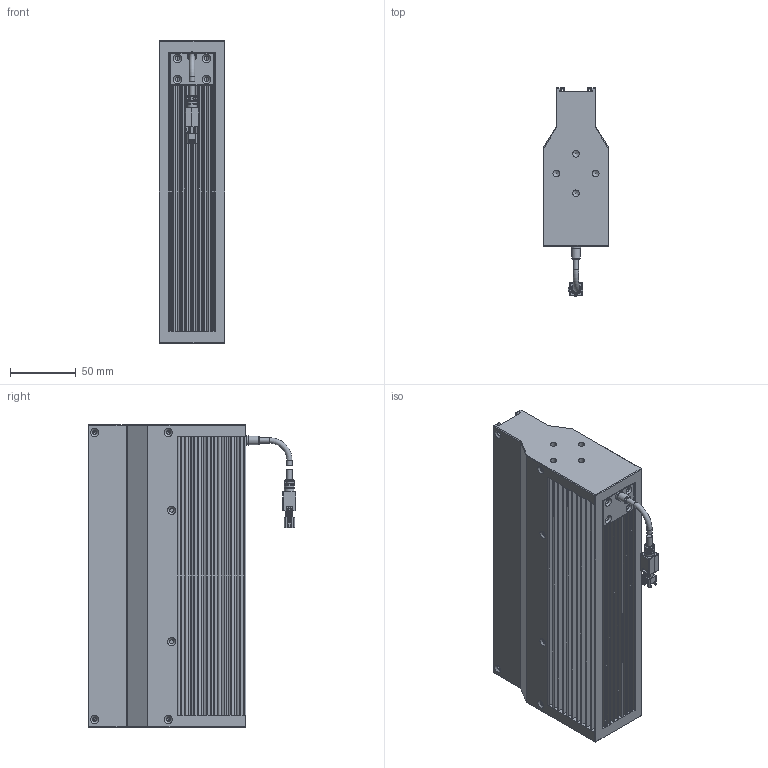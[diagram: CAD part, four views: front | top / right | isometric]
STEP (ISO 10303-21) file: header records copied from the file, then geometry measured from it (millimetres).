
FILE_DESCRIPTION (( 'STEP AP203' ), '1' );
FILE_NAME ('OPT-LSNL230-W-V1.0尨砩芞.STEP', '2025-02-17T09:01:45', ( '' ), ( '' ), 'SwSTEP 2.0', 'SolidWorks 2016', '' );
FILE_SCHEMA (( 'CONFIG_CONTROL_DESIGN' ));
Length unit declared in the file: millimetre
Products named in the file (1): OPT-LSNL230-W-V1.0尨砩芞
Bounding box: 50.02 x 158 x 230 mm (x, y, z)
Volume: 844743.1 mm3; surface area: 277011.5 mm2
Topology: 8 solids, 14 shells, 982 faces, 2702 edges, 1734 vertices
Faces by surface type: plane 586, cylinder 323, cone 44, bspline 21, torus 8
Full cylindrical faces by diameter (mm): 1.1 x2, 1.4 x2, 2.5 x10, 3 x8, 3.4 x16, 3.5 x1, 4.1 x4, 5 x8, 5.8 x1, 6.5 x1, 7 x1, 7.5 x1
Entity records: 33448 total; most frequent: CARTESIAN_POINT 9538, ORIENTED_EDGE 5074, DIRECTION 4654, EDGE_CURVE 2537, VERTEX_POINT 1680, LINE 1638, VECTOR 1638, AXIS2_PLACEMENT_3D 1508
